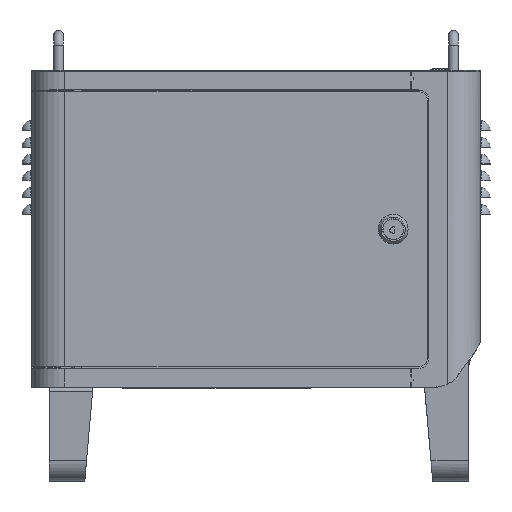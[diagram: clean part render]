
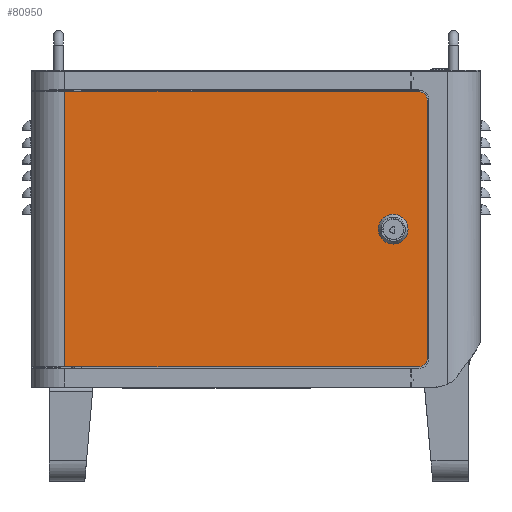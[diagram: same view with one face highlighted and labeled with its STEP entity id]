
A CAD part, top view. The second image highlights one B-rep face of the part: STEP entity #80950.
In plain terms, the highlighted planar face has unit normal (0, 0, 1).
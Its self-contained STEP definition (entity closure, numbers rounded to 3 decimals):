
#780=FACE_BOUND('',#27565,.T.);
#1564=CIRCLE('',#85788,9.);
#1565=CIRCLE('',#85789,9.);
#1566=CIRCLE('',#85790,9.5);
#1567=CIRCLE('',#85791,9.5);
#6258=LINE('',#116659,#13639);
#6259=LINE('',#116664,#13640);
#6261=LINE('',#116671,#13642);
#6262=LINE('',#116673,#13643);
#6263=LINE('',#116676,#13644);
#6264=LINE('',#116680,#13645);
#13639=VECTOR('',#94165,358.1);
#13640=VECTOR('',#94170,358.1);
#13642=VECTOR('',#94178,261.);
#13643=VECTOR('',#94181,279.);
#13644=VECTOR('',#94182,10.247);
#13645=VECTOR('',#94185,10.247);
#20578=PLANE('',#85787);
#23114=FACE_OUTER_BOUND('',#27564,.T.);
#27564=EDGE_LOOP('',(#54299,#54300,#54301,#54302,#54303,#54304));
#27565=EDGE_LOOP('',(#54305,#54306,#54307,#54308));
#33843=VERTEX_POINT('',#116656);
#33844=VERTEX_POINT('',#116658);
#33845=VERTEX_POINT('',#116662);
#33846=VERTEX_POINT('',#116663);
#33847=VERTEX_POINT('',#116668);
#33848=VERTEX_POINT('',#116670);
#33849=VERTEX_POINT('',#116674);
#33850=VERTEX_POINT('',#116675);
#33851=VERTEX_POINT('',#116677);
#33852=VERTEX_POINT('',#116679);
#41733=EDGE_CURVE('',#33843,#33844,#6258,.T.);
#41735=EDGE_CURVE('',#33845,#33846,#6259,.F.);
#41738=EDGE_CURVE('',#33843,#33847,#1564,.F.);
#41739=EDGE_CURVE('',#33848,#33847,#6261,.T.);
#41740=EDGE_CURVE('',#33848,#33846,#1565,.F.);
#41741=EDGE_CURVE('',#33845,#33844,#6262,.F.);
#41742=EDGE_CURVE('',#33849,#33850,#6263,.T.);
#41743=EDGE_CURVE('',#33850,#33851,#1566,.T.);
#41744=EDGE_CURVE('',#33851,#33852,#6264,.T.);
#41745=EDGE_CURVE('',#33852,#33849,#1567,.T.);
#54299=ORIENTED_EDGE('',*,*,#41733,.F.);
#54300=ORIENTED_EDGE('',*,*,#41738,.T.);
#54301=ORIENTED_EDGE('',*,*,#41739,.F.);
#54302=ORIENTED_EDGE('',*,*,#41740,.T.);
#54303=ORIENTED_EDGE('',*,*,#41735,.F.);
#54304=ORIENTED_EDGE('',*,*,#41741,.T.);
#54305=ORIENTED_EDGE('',*,*,#41742,.T.);
#54306=ORIENTED_EDGE('',*,*,#41743,.T.);
#54307=ORIENTED_EDGE('',*,*,#41744,.T.);
#54308=ORIENTED_EDGE('',*,*,#41745,.T.);
#80950=ADVANCED_FACE('',(#23114,#780),#20578,.F.);
#85787=AXIS2_PLACEMENT_3D('',#116667,#94174,#94175);
#85788=AXIS2_PLACEMENT_3D('',#116669,#94176,#94177);
#85789=AXIS2_PLACEMENT_3D('',#116672,#94179,#94180);
#85790=AXIS2_PLACEMENT_3D('',#116678,#94183,#94184);
#85791=AXIS2_PLACEMENT_3D('',#116681,#94186,#94187);
#94165=DIRECTION('',(-1.,0.,0.));
#94170=DIRECTION('',(-1.,0.,0.));
#94174=DIRECTION('center_axis',(0.,0.,
-1.));
#94175=DIRECTION('ref_axis',(-1.,0.,0.));
#94176=DIRECTION('center_axis',(0.,0.,
-1.));
#94177=DIRECTION('ref_axis',(-1.,0.,0.));
#94178=DIRECTION('',(0.,-1.,0.));
#94179=DIRECTION('center_axis',(0.,0.,
-1.));
#94180=DIRECTION('ref_axis',(-1.,0.,0.));
#94181=DIRECTION('',(0.,1.,0.));
#94182=DIRECTION('',(1.,0.,0.));
#94183=DIRECTION('center_axis',(0.,0.,
-1.));
#94184=DIRECTION('ref_axis',(-1.,0.,0.));
#94185=DIRECTION('',(-1.,0.,0.));
#94186=DIRECTION('center_axis',(0.,0.,
-1.));
#94187=DIRECTION('ref_axis',(-1.,0.,0.));
#116656=CARTESIAN_POINT('',(1041.858,311.458,159.661));
#116658=CARTESIAN_POINT('',(683.758,311.458,159.661));
#116659=CARTESIAN_POINT('',(1041.858,311.458,159.661));
#116662=CARTESIAN_POINT('',(683.758,590.458,159.661));
#116663=CARTESIAN_POINT('',(1041.858,590.458,159.661));
#116664=CARTESIAN_POINT('',(1041.858,590.458,159.661));
#116667=CARTESIAN_POINT('Origin',(850.858,450.958,159.661));
#116668=CARTESIAN_POINT('',(1050.858,320.458,159.661));
#116669=CARTESIAN_POINT('Origin',(1041.858,320.458,159.661));
#116670=CARTESIAN_POINT('',(1050.858,581.458,159.661));
#116671=CARTESIAN_POINT('',(1050.858,581.458,159.661));
#116672=CARTESIAN_POINT('Origin',(1041.858,581.458,159.661));
#116673=CARTESIAN_POINT('',(683.758,311.458,159.661));
#116674=CARTESIAN_POINT('',(1011.234,458.958,159.661));
#116675=CARTESIAN_POINT('',(1021.481,458.958,159.661));
#116676=CARTESIAN_POINT('',(1011.234,458.958,159.661));
#116677=CARTESIAN_POINT('',(1021.481,442.958,159.661));
#116678=CARTESIAN_POINT('Origin',(1016.358,450.958,159.661));
#116679=CARTESIAN_POINT('',(1011.234,442.958,159.661));
#116680=CARTESIAN_POINT('',(1021.481,442.958,159.661));
#116681=CARTESIAN_POINT('Origin',(1016.358,450.958,159.661));
